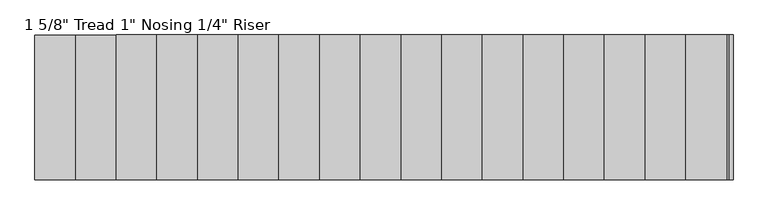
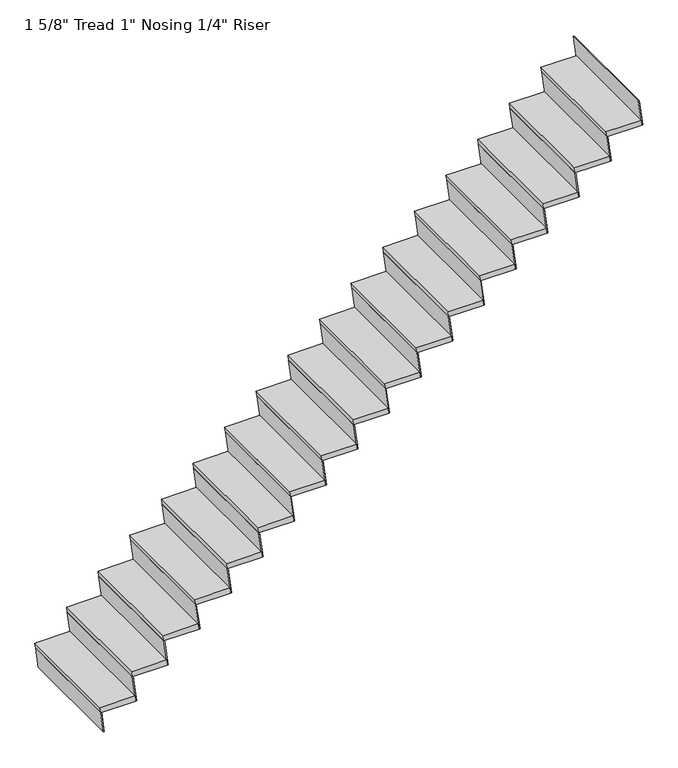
"""IFC4 building model written with IfcOpenShell, lengths in millimetres: stair flight geometry."""

from ifc_helpers import new_model, si_unit, frame, origin, place, context, project, spatial, polyline, outline, extrude, source, transform, mapped, element, save


def stair_flight_76ddc24f(model_context):
    return source(origin(), model_context, "Body", "SweptSolid", [
        extrude(outline(polyline([(194.7333333, -15759.2535292), (194.7333333, -16013.2535292), (153.4583333, -16007.8698335), (153.4583333, -15753.8698335), (194.7333333, -15759.2535292)])), frame((0.0, -1798.6064015, 0.0), z_axis=(0.0, 1.0, 0.0), x_axis=(0.0, 0.0, 1.0)), (0.0, 0.0, 1.0), 812.8),
        extrude(outline(polyline([(153.4583333, -16007.8698335), (0.0, -15987.8535292), (0.0, -15981.44974), (153.4583333, -16001.4660443), (153.4583333, -16007.8698335)])), frame((0.0, -1798.6064015, 0.0), z_axis=(0.0, 1.0, 0.0), x_axis=(0.0, 0.0, 1.0)), (0.0, 0.0, 1.0), 812.8),
        extrude(outline(polyline([(389.4666667, -15530.6535292), (389.4666667, -15784.6535292), (348.1916667, -15779.2698335), (348.1916667, -15525.2698335), (389.4666667, -15530.6535292)])), frame((0.0, -1798.6064015, 0.0), z_axis=(0.0, 1.0, 0.0), x_axis=(0.0, 0.0, 1.0)), (0.0, 0.0, 1.0), 812.8),
        extrude(outline(polyline([(348.1916667, -15779.2698335), (153.4583333, -15753.8698335), (153.4583333, -15747.4660443), (348.1916667, -15772.8660443), (348.1916667, -15779.2698335)])), frame((0.0, -1798.6064015, 0.0), z_axis=(0.0, 1.0, 0.0), x_axis=(0.0, 0.0, 1.0)), (0.0, 0.0, 1.0), 812.8),
        extrude(outline(polyline([(584.2, -15302.0535292), (584.2, -15556.0535292), (542.925, -15550.6698335), (542.925, -15296.6698335), (584.2, -15302.0535292)])), frame((0.0, -1798.6064015, 0.0), z_axis=(0.0, 1.0, 0.0), x_axis=(0.0, 0.0, 1.0)), (0.0, 0.0, 1.0), 812.8),
        extrude(outline(polyline([(542.925, -15550.6698335), (348.1916667, -15525.2698335), (348.1916667, -15518.8660443), (542.925, -15544.2660443), (542.925, -15550.6698335)])), frame((0.0, -1798.6064015, 0.0), z_axis=(0.0, 1.0, 0.0), x_axis=(0.0, 0.0, 1.0)), (0.0, 0.0, 1.0), 812.8),
        extrude(outline(polyline([(778.9333333, -15073.4535292), (778.9333333, -15327.4535292), (737.6583333, -15322.0698335), (737.6583333, -15068.0698335), (778.9333333, -15073.4535292)])), frame((0.0, -1798.6064015, 0.0), z_axis=(0.0, 1.0, 0.0), x_axis=(0.0, 0.0, 1.0)), (0.0, 0.0, 1.0), 812.8),
        extrude(outline(polyline([(737.6583333, -15322.0698335), (542.925, -15296.6698335), (542.925, -15290.2660443), (737.6583333, -15315.6660443), (737.6583333, -15322.0698335)])), frame((0.0, -1798.6064015, 0.0), z_axis=(0.0, 1.0, 0.0), x_axis=(0.0, 0.0, 1.0)), (0.0, 0.0, 1.0), 812.8),
        extrude(outline(polyline([(973.6666667, -14844.8535292), (973.6666667, -15098.8535292), (932.3916667, -15093.4698335), (932.3916667, -14839.4698335), (973.6666667, -14844.8535292)])), frame((0.0, -1798.6064015, 0.0), z_axis=(0.0, 1.0, 0.0), x_axis=(0.0, 0.0, 1.0)), (0.0, 0.0, 1.0), 812.8),
        extrude(outline(polyline([(932.3916667, -15093.4698335), (737.6583333, -15068.0698335), (737.6583333, -15061.6660443), (932.3916667, -15087.0660443), (932.3916667, -15093.4698335)])), frame((0.0, -1798.6064015, 0.0), z_axis=(0.0, 1.0, 0.0), x_axis=(0.0, 0.0, 1.0)), (0.0, 0.0, 1.0), 812.8),
        extrude(outline(polyline([(1168.4, -14616.2535292), (1168.4, -14870.2535292), (1127.125, -14864.8698335), (1127.125, -14610.8698335), (1168.4, -14616.2535292)])), frame((0.0, -1798.6064015, 0.0), z_axis=(0.0, 1.0, 0.0), x_axis=(0.0, 0.0, 1.0)), (0.0, 0.0, 1.0), 812.8),
        extrude(outline(polyline([(1127.125, -14864.8698335), (932.3916667, -14839.4698335), (932.3916667, -14833.0660443), (1127.125, -14858.4660443), (1127.125, -14864.8698335)])), frame((0.0, -1798.6064015, 0.0), z_axis=(0.0, 1.0, 0.0), x_axis=(0.0, 0.0, 1.0)), (0.0, 0.0, 1.0), 812.8),
        extrude(outline(polyline([(1363.1333333, -14387.6535292), (1363.1333333, -14641.6535292), (1321.8583333, -14636.2698335), (1321.8583333, -14382.2698335), (1363.1333333, -14387.6535292)])), frame((0.0, -1798.6064015, 0.0), z_axis=(0.0, 1.0, 0.0), x_axis=(0.0, 0.0, 1.0)), (0.0, 0.0, 1.0), 812.8),
        extrude(outline(polyline([(1321.8583333, -14636.2698335), (1127.125, -14610.8698335), (1127.125, -14604.4660443), (1321.8583333, -14629.8660443), (1321.8583333, -14636.2698335)])), frame((0.0, -1798.6064015, 0.0), z_axis=(0.0, 1.0, 0.0), x_axis=(0.0, 0.0, 1.0)), (0.0, 0.0, 1.0), 812.8),
        extrude(outline(polyline([(1557.8666667, -14159.0535292), (1557.8666667, -14413.0535292), (1516.5916667, -14407.6698335), (1516.5916667, -14153.6698335), (1557.8666667, -14159.0535292)])), frame((0.0, -1798.6064015, 0.0), z_axis=(0.0, 1.0, 0.0), x_axis=(0.0, 0.0, 1.0)), (0.0, 0.0, 1.0), 812.8),
        extrude(outline(polyline([(1516.5916667, -14407.6698335), (1321.8583333, -14382.2698335), (1321.8583333, -14375.8660443), (1516.5916667, -14401.2660443), (1516.5916667, -14407.6698335)])), frame((0.0, -1798.6064015, 0.0), z_axis=(0.0, 1.0, 0.0), x_axis=(0.0, 0.0, 1.0)), (0.0, 0.0, 1.0), 812.8),
        extrude(outline(polyline([(1752.6, -13930.4535292), (1752.6, -14184.4535292), (1711.325, -14179.0698335), (1711.325, -13925.0698335), (1752.6, -13930.4535292)])), frame((0.0, -1798.6064015, 0.0), z_axis=(0.0, 1.0, 0.0), x_axis=(0.0, 0.0, 1.0)), (0.0, 0.0, 1.0), 812.8),
        extrude(outline(polyline([(1711.325, -14179.0698335), (1516.5916667, -14153.6698335), (1516.5916667, -14147.2660443), (1711.325, -14172.6660443), (1711.325, -14179.0698335)])), frame((0.0, -1798.6064015, 0.0), z_axis=(0.0, 1.0, 0.0), x_axis=(0.0, 0.0, 1.0)), (0.0, 0.0, 1.0), 812.8),
        extrude(outline(polyline([(1947.3333333, -13701.8535292), (1947.3333333, -13955.8535292), (1906.0583333, -13950.4698335), (1906.0583333, -13696.4698335), (1947.3333333, -13701.8535292)])), frame((0.0, -1798.6064015, 0.0), z_axis=(0.0, 1.0, 0.0), x_axis=(0.0, 0.0, 1.0)), (0.0, 0.0, 1.0), 812.8),
        extrude(outline(polyline([(1906.0583333, -13950.4698335), (1711.325, -13925.0698335), (1711.325, -13918.6660443), (1906.0583333, -13944.0660443), (1906.0583333, -13950.4698335)])), frame((0.0, -1798.6064015, 0.0), z_axis=(0.0, 1.0, 0.0), x_axis=(0.0, 0.0, 1.0)), (0.0, 0.0, 1.0), 812.8),
        extrude(outline(polyline([(2142.0666667, -13473.2535292), (2142.0666667, -13727.2535292), (2100.7916667, -13721.8698335), (2100.7916667, -13467.8698335), (2142.0666667, -13473.2535292)])), frame((0.0, -1798.6064015, 0.0), z_axis=(0.0, 1.0, 0.0), x_axis=(0.0, 0.0, 1.0)), (0.0, 0.0, 1.0), 812.8),
        extrude(outline(polyline([(2100.7916667, -13721.8698335), (1906.0583333, -13696.4698335), (1906.0583333, -13690.0660443), (2100.7916667, -13715.4660443), (2100.7916667, -13721.8698335)])), frame((0.0, -1798.6064015, 0.0), z_axis=(0.0, 1.0, 0.0), x_axis=(0.0, 0.0, 1.0)), (0.0, 0.0, 1.0), 812.8),
        extrude(outline(polyline([(2336.8, -13244.6535292), (2336.8, -13498.6535292), (2295.525, -13493.2698335), (2295.525, -13239.2698335), (2336.8, -13244.6535292)])), frame((0.0, -1798.6064015, 0.0), z_axis=(0.0, 1.0, 0.0), x_axis=(0.0, 0.0, 1.0)), (0.0, 0.0, 1.0), 812.8),
        extrude(outline(polyline([(2295.525, -13493.2698335), (2100.7916667, -13467.8698335), (2100.7916667, -13461.4660443), (2295.525, -13486.8660443), (2295.525, -13493.2698335)])), frame((0.0, -1798.6064015, 0.0), z_axis=(0.0, 1.0, 0.0), x_axis=(0.0, 0.0, 1.0)), (0.0, 0.0, 1.0), 812.8),
        extrude(outline(polyline([(2531.5333333, -13016.0535292), (2531.5333333, -13270.0535292), (2490.2583333, -13264.6698335), (2490.2583333, -13010.6698335), (2531.5333333, -13016.0535292)])), frame((0.0, -1798.6064015, 0.0), z_axis=(0.0, 1.0, 0.0), x_axis=(0.0, 0.0, 1.0)), (0.0, 0.0, 1.0), 812.8),
        extrude(outline(polyline([(2490.2583333, -13264.6698335), (2295.525, -13239.2698335), (2295.525, -13232.8660443), (2490.2583333, -13258.2660443), (2490.2583333, -13264.6698335)])), frame((0.0, -1798.6064015, 0.0), z_axis=(0.0, 1.0, 0.0), x_axis=(0.0, 0.0, 1.0)), (0.0, 0.0, 1.0), 812.8),
        extrude(outline(polyline([(2726.2666667, -12787.4535292), (2726.2666667, -13041.4535292), (2684.9916667, -13036.0698335), (2684.9916667, -12782.0698335), (2726.2666667, -12787.4535292)])), frame((0.0, -1798.6064015, 0.0), z_axis=(0.0, 1.0, 0.0), x_axis=(0.0, 0.0, 1.0)), (0.0, 0.0, 1.0), 812.8),
        extrude(outline(polyline([(2684.9916667, -13036.0698335), (2490.2583333, -13010.6698335), (2490.2583333, -13004.2660443), (2684.9916667, -13029.6660443), (2684.9916667, -13036.0698335)])), frame((0.0, -1798.6064015, 0.0), z_axis=(0.0, 1.0, 0.0), x_axis=(0.0, 0.0, 1.0)), (0.0, 0.0, 1.0), 812.8),
        extrude(outline(polyline([(2921.0, -12558.8535292), (2921.0, -12812.8535292), (2879.725, -12807.4698335), (2879.725, -12553.4698335), (2921.0, -12558.8535292)])), frame((0.0, -1798.6064015, 0.0), z_axis=(0.0, 1.0, 0.0), x_axis=(0.0, 0.0, 1.0)), (0.0, 0.0, 1.0), 812.8),
        extrude(outline(polyline([(2879.725, -12807.4698335), (2684.9916667, -12782.0698335), (2684.9916667, -12775.6660443), (2879.725, -12801.0660443), (2879.725, -12807.4698335)])), frame((0.0, -1798.6064015, 0.0), z_axis=(0.0, 1.0, 0.0), x_axis=(0.0, 0.0, 1.0)), (0.0, 0.0, 1.0), 812.8),
        extrude(outline(polyline([(3115.7333333, -12330.2535292), (3115.7333333, -12584.2535292), (3074.4583333, -12578.8698335), (3074.4583333, -12324.8698335), (3115.7333333, -12330.2535292)])), frame((0.0, -1798.6064015, 0.0), z_axis=(0.0, 1.0, 0.0), x_axis=(0.0, 0.0, 1.0)), (0.0, 0.0, 1.0), 812.8),
        extrude(outline(polyline([(3074.4583333, -12578.8698335), (2879.725, -12553.4698335), (2879.725, -12547.0660443), (3074.4583333, -12572.4660443), (3074.4583333, -12578.8698335)])), frame((0.0, -1798.6064015, 0.0), z_axis=(0.0, 1.0, 0.0), x_axis=(0.0, 0.0, 1.0)), (0.0, 0.0, 1.0), 812.8),
        extrude(outline(polyline([(3310.4666667, -12101.6535292), (3310.4666667, -12355.6535292), (3269.1916667, -12350.2698335), (3269.1916667, -12096.2698335), (3310.4666667, -12101.6535292)])), frame((0.0, -1798.6064015, 0.0), z_axis=(0.0, 1.0, 0.0), x_axis=(0.0, 0.0, 1.0)), (0.0, 0.0, 1.0), 812.8),
        extrude(outline(polyline([(3269.1916667, -12350.2698335), (3074.4583333, -12324.8698335), (3074.4583333, -12318.4660443), (3269.1916667, -12343.8660443), (3269.1916667, -12350.2698335)])), frame((0.0, -1798.6064015, 0.0), z_axis=(0.0, 1.0, 0.0), x_axis=(0.0, 0.0, 1.0)), (0.0, 0.0, 1.0), 812.8),
        extrude(outline(polyline([(3463.925, -12121.6698335), (3269.1916667, -12096.2698335), (3269.1916667, -12089.8660443), (3463.925, -12115.2660443), (3463.925, -12121.6698335)])), frame((0.0, -1798.6064015, 0.0), z_axis=(0.0, 1.0, 0.0), x_axis=(0.0, 0.0, 1.0)), (0.0, 0.0, 1.0), 812.8),
    ])


if __name__ == "__main__":
    model = new_model("IFC4")
    model_context = context("Model", 3, world=origin())
    ifc_project = project(units=[si_unit("LENGTHUNIT", "METRE", prefix="MILLI")], contexts=[model_context])
    site = spatial("IfcSite", under=ifc_project)
    building = spatial("IfcBuilding", under=site)
    placement = place(None, origin())
    stair_flight_shape = stair_flight_76ddc24f(model_context)
    element("IfcStairFlight", 1, ObjectType="1 5/8\" Tread 1\" Nosing 1/4\" Riser", at=placement, inside=building, context=model_context, shape_type="MappedRepresentation", body=[
        mapped(stair_flight_shape, transform((0.0, 0.0, 0.0), x_axis=(1.0, 0.0, 0.0), y_axis=(0.0, 1.0, 0.0), z_axis=(0.0, 0.0, 1.0))),
    ])
    save(model, "model.ifc")
